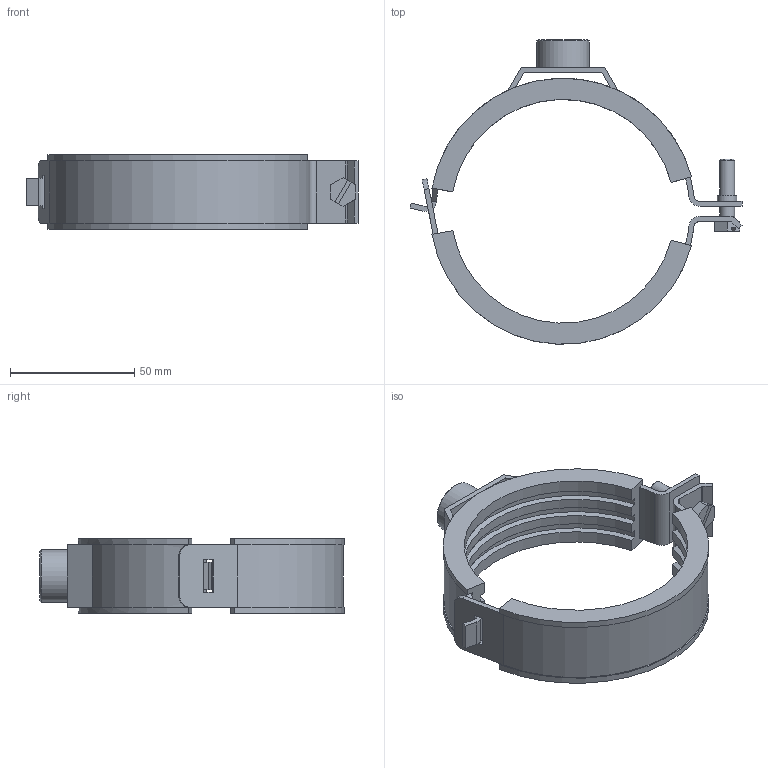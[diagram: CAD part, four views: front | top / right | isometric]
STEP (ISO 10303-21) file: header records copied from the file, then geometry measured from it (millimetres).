
FILE_DESCRIPTION(/* description */ (''),/* implementation_level */ '2;1');
FILE_NAME(/* name */ 'H:\Geberit-Teile\Export\Rohrschelle gedämmt ART\stp\308812.stp',/* time_stamp */ '2014-04-15T15:31:48+02:00',/* author */ ('seihe2'),/* organization */ (''),/* preprocessor_version */ 'ST-DEVELOPER v15.2',/* originating_system */ 'Autodesk Inventor 2014',/* authorisation */ '');
FILE_SCHEMA (('AUTOMOTIVE_DESIGN { 1 0 10303 214 3 1 1 }'));
Length unit declared in the file: millimetre
Products named in the file (1): 308812
Bounding box: 133.52 x 122.45 x 30 mm (x, y, z)
Volume: 67976.4 mm3; surface area: 33481.1 mm2
Topology: 1 solids, 1 shells, 138 faces, 380 edges, 246 vertices
Faces by surface type: plane 78, cylinder 46, cone 14
Full cylindrical faces by diameter (mm): 6 x2, 7.75 x1, 10 x1, 20.95 x1
Entity records: 4533 total; most frequent: CARTESIAN_POINT 777, DIRECTION 761, ORIENTED_EDGE 744, EDGE_CURVE 372, LINE 259, VECTOR 259, AXIS2_PLACEMENT_3D 251, VERTEX_POINT 245
